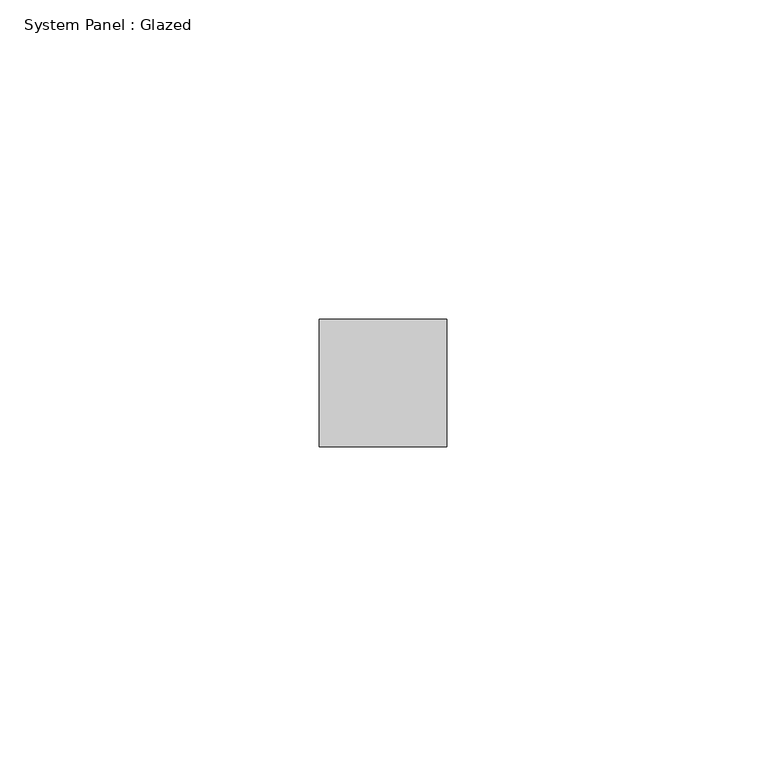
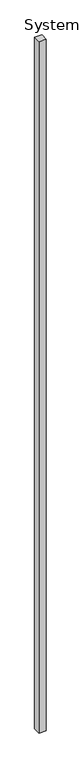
"""IFC4 building model written with IfcOpenShell, lengths in millimetres: plate geometry, System Panel : Glazed."""

from ifc_helpers import new_model, si_unit, origin, origin_with_axes, place, context, project, spatial, polyline, outline, extrude, source, transform, mapped, element, save


def system_panel_glazed_bbb9c1de(model_context):
    return source(origin(), model_context, "Body", "SweptSolid", [
        extrude(outline(polyline([(10.0, 0.0), (-10.0, 0.0), (-10.0, 20.0), (10.0, 20.0), (10.0, 0.0)])), origin_with_axes(), (0.0, 0.0, 1.0), 2000.0),
    ])


if __name__ == "__main__":
    model = new_model("IFC4")
    model_context = context("Model", 3, world=origin())
    ifc_project = project(units=[si_unit("LENGTHUNIT", "METRE", prefix="MILLI")], contexts=[model_context])
    site = spatial("IfcSite", under=ifc_project)
    building = spatial("IfcBuilding", under=site)
    placement = place(None, origin())
    system_panel_glazed_shape = system_panel_glazed_bbb9c1de(model_context)
    element("IfcPlate", 1, ObjectType="System Panel : Glazed", at=placement, inside=building, context=model_context, shape_type="MappedRepresentation", body=[
        mapped(system_panel_glazed_shape, transform((0.0, 0.0, 0.0), x_axis=(1.0, 0.0, 0.0), y_axis=(0.0, 1.0, 0.0), z_axis=(0.0, 0.0, 1.0))),
    ])
    save(model, "model.ifc")
